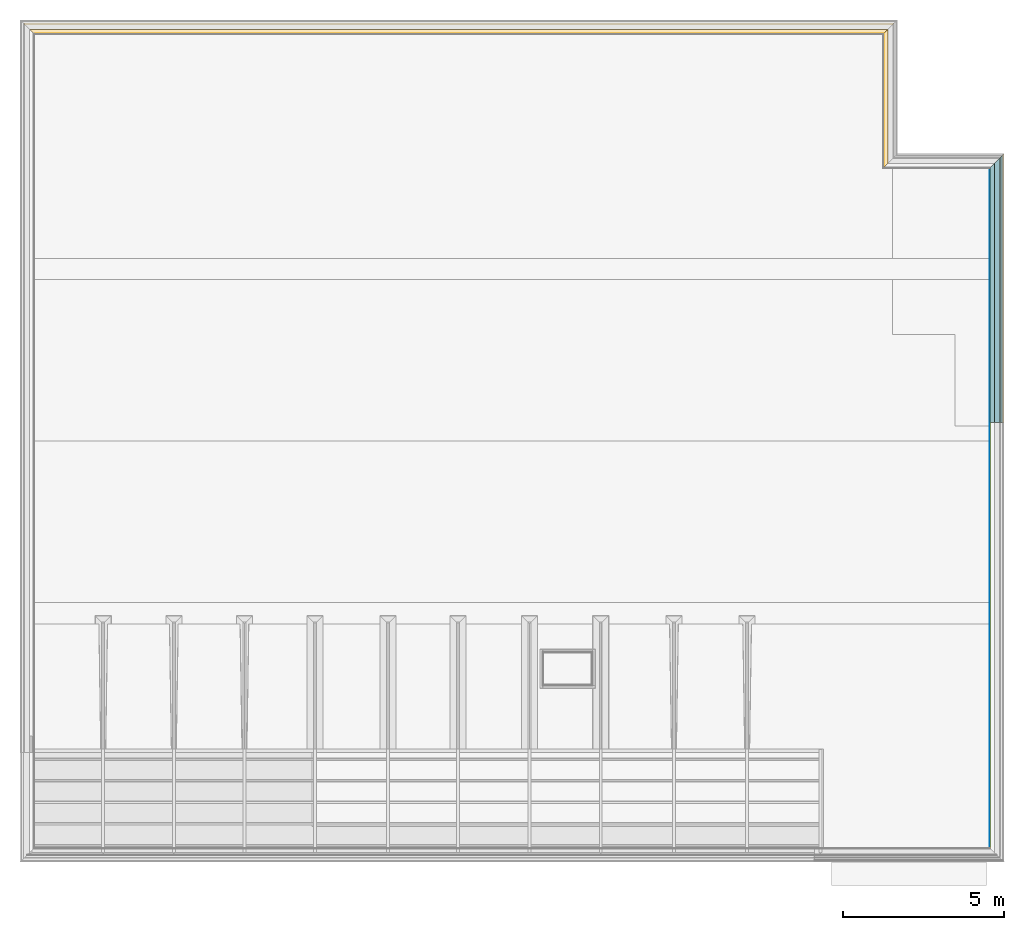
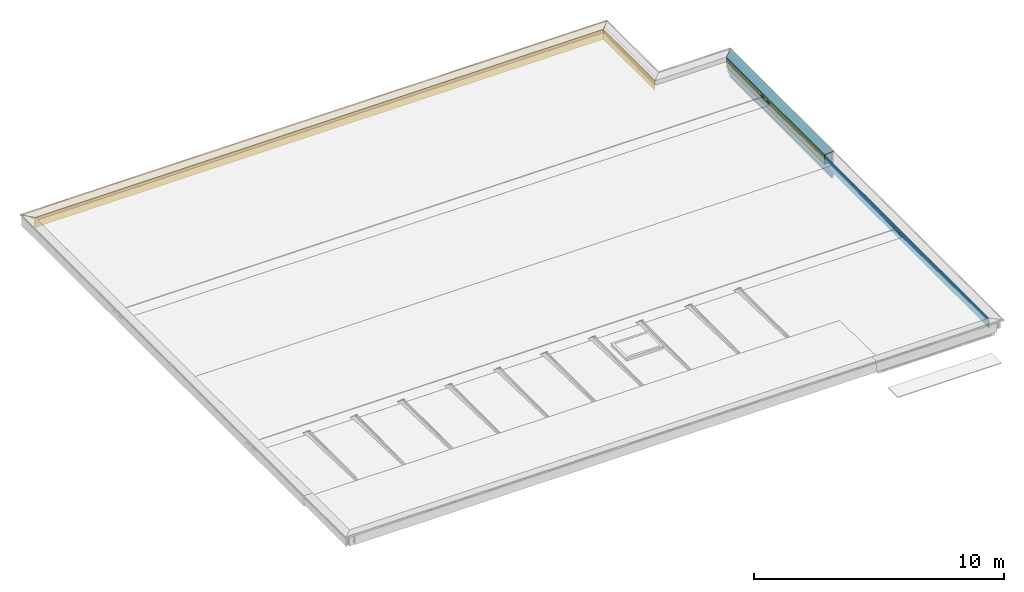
# One storey, part 15 of 16: 9 coverings, 8 building element parts, 4 openings, 4 elements without a shape of their own.
"""IFC2X3 building model written with IfcOpenShell, lengths in millimetres."""

from ifc_helpers import new_model, entity, si_unit, converted_unit, derived_unit, money_unit, direction, frame, origin_with_axes, place, context, subcontext, project, spatial, faceted_brep, material, type_object, element, aggregate, save


model = new_model("IFC2X3")

# Units and contexts
model_context = context("Model", 3, precision=0.01, world=origin_with_axes(), true_north=direction((0.0, 1.0)))
body_context = subcontext(model_context, "Body", "Model", "MODEL_VIEW")
ifc_project = project(units=[si_unit("LENGTHUNIT", "METRE", prefix="MILLI"), si_unit("AREAUNIT", "SQUARE_METRE"), si_unit("VOLUMEUNIT", "CUBIC_METRE"), converted_unit("PLANEANGLEUNIT", "DEGREE", entity("IfcPlaneAngleMeasure", 0.0174532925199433), si_unit("PLANEANGLEUNIT", "RADIAN"), dimensions=[0, 0, 0, 0, 0, 0, 0]), money_unit("EUR"), converted_unit("TIMEUNIT", "Year", entity("IfcTimeMeasure", 31556926.0), si_unit("TIMEUNIT", "SECOND"), dimensions=[0, 0, 1, 0, 0, 0, 0]), si_unit("MASSUNIT", "GRAM", prefix="KILO"), si_unit("THERMODYNAMICTEMPERATUREUNIT", "DEGREE_CELSIUS"), si_unit("LUMINOUSINTENSITYUNIT", "LUMEN"), si_unit("ENERGYUNIT", "JOULE", prefix="MEGA"), derived_unit("THERMALCONDUCTANCEUNIT", [(si_unit("POWERUNIT", "WATT"), 1), (si_unit("LENGTHUNIT", "METRE"), -1), (si_unit("THERMODYNAMICTEMPERATUREUNIT", "KELVIN"), -1)]), derived_unit("SPECIFICHEATCAPACITYUNIT", [(si_unit("ENERGYUNIT", "JOULE"), 1), (si_unit("MASSUNIT", "GRAM", prefix="KILO"), -1), (si_unit("THERMODYNAMICTEMPERATUREUNIT", "KELVIN"), -1)]), derived_unit("MASSDENSITYUNIT", [(si_unit("MASSUNIT", "GRAM", prefix="KILO"), 1), (si_unit("VOLUMEUNIT", "CUBIC_METRE"), -1)])], contexts=[model_context])

# Site, building, storey
site_placement = place(None, origin_with_axes())
site = spatial("IfcSite", under=ifc_project, at=site_placement, Name="Site", CompositionType="ELEMENT")
building_placement = place(site_placement, origin_with_axes())
building = spatial("IfcBuilding", under=site, at=building_placement, Name="Naam gebouw", CompositionType="ELEMENT")
storey_placement = place(building_placement, frame((0.0, 0.0, 7820.0), z_axis=(0.0, 0.0, 1.0), x_axis=(1.0, 0.0, 0.0)))
storey = spatial("IfcBuildingStorey", under=building, at=storey_placement, Name="2e dakoverzicht", CompositionType="ELEMENT", Elevation=7820.0)

# Beam, openings, coverings
beam_type_1 = type_object("IfcBeamType", Name="47 Isoniq M metselwerk overstek 443 x 1282", PredefinedType="BEAM")
beam_1_placement = place(storey_placement, frame((29899.99999999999, 25024.97621406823, 480.0000000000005), z_axis=(0.0, 0.0, 1.0), x_axis=(-1.0, 0.0, 0.0)))
beam_1 = element("IfcBeam", 1, at=beam_1_placement, inside=storey, type_object=beam_type_1, Name="28_Balk-x", ObjectType="BEAM")
opening_1_placement = place(beam_1_placement, frame((29899.99999999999, 25024.97621406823, -8300.0), z_axis=(0.0, 0.0, 1.0), x_axis=(-1.0, 0.0, 0.0)))
element("IfcOpeningElement", 2, at=opening_1_placement, cuts=beam_1, Name="_Opening-x", context=body_context, shape_type="Brep", body=[
    faceted_brep([(30190.00003246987, 21645.00000127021, 8102.999999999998), (30190.00003246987, 21415.00000127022, 8102.999999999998), (29710.00000134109, 21415.00000127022, 8102.999999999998), (29710.00000134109, 21645.00000127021, 8102.999999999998), (30190.00003246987, 21645.00000127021, 8172.999999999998), (30190.00003246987, 21415.00000127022, 8172.999999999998), (29710.00000134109, 21415.00000127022, 8172.999999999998), (29710.00000134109, 21645.00000127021, 8172.999999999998)], [[[0, 1, 2, 3]], [[0, 4, 5, 1]], [[1, 5, 6, 2]], [[3, 2, 6, 7]], [[4, 0, 3, 7]], [[5, 4, 7, 6]]]),
])
opening_2_placement = place(beam_1_placement, frame((29899.99999999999, 25024.97621406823, -8300.0), z_axis=(0.0, 0.0, 1.0), x_axis=(-1.0, 0.0, 0.0)))
element("IfcOpeningElement", 3, at=opening_2_placement, cuts=beam_1, Name="_Opening-x", context=body_context, shape_type="Brep", body=[
    faceted_brep([(29710.00000134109, 22085.00000127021, 8102.999999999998), (29710.00000134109, 22085.00000127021, 8172.999999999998), (30628.71943941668, 22085.00000127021, 8172.999999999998), (30628.71943941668, 22085.00000127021, 8102.999999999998), (29710.00000134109, 21855.00000127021, 8102.999999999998), (29710.00000134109, 21855.00000127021, 8172.999999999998), (30628.71943941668, 21855.00000127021, 8172.999999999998), (30628.71943941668, 21855.00000127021, 8102.999999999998)], [[[0, 1, 2, 3]], [[0, 4, 5, 1]], [[1, 5, 6, 2]], [[3, 2, 6, 7]], [[4, 0, 3, 7]], [[5, 4, 7, 6]]]),
])
ifc_material_1 = material(Name="Hout - Vloer")
covering_1_placement = place(beam_1_placement, origin_with_axes())
covering_1 = element("IfcCovering", 4, at=covering_1_placement, material=ifc_material_1, Name="Hout - Vloer", PredefinedType="NOTDEFINED", context=body_context, shape_type="Brep", body=[
    faceted_brep([(-1.701266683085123e-06, 8024.978432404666, -9.998211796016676), (-1.701266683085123e-06, 8024.978432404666, -48.00000479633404), (-1.701266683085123e-06, -1.701266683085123e-06, -48.00000479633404), (-1.701266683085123e-06, -1.701266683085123e-06, -9.998211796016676), (139.9484923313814, 8024.978432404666, -9.999995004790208), (140.0000009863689, 8024.978432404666, -47.99999774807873), (140.0000009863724, 140.0000009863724, -47.99999774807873), (139.9484923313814, 139.9484923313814, -9.999995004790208)], [[[0, 1, 2, 3]], [[0, 4, 5, 1]], [[1, 5, 6, 2]], [[3, 2, 6, 7]], [[4, 0, 3, 7]], [[5, 4, 7, 6]]]),
])
ifc_material_2 = material(Name="Hout - Spaanplaat")
covering_2_placement = place(beam_1_placement, origin_with_axes())
covering_2 = element("IfcCovering", 5, at=covering_2_placement, material=ifc_material_2, Name="Hout - Spaanplaat", PredefinedType="NOTDEFINED", context=body_context, shape_type="Brep", body=[
    faceted_brep([(-285.3597197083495, -285.3597197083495, 8.27450903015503), (-284.7348565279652, -284.7348565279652, 26.26365084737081), (-284.7348565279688, 8024.978432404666, 26.26365084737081), (-285.3597197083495, 8024.978432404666, 8.27450903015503), (154.3750810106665, 154.3750810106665, -7.000004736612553), (155.0000045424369, 155.0000045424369, 10.98915216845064), (155.0000045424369, 8024.978432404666, 10.98915216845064), (154.3750810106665, 8024.978432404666, -7.000004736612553)], [[[0, 1, 2, 3]], [[4, 5, 1, 0]], [[1, 5, 6, 2]], [[7, 3, 2, 6]], [[4, 0, 3, 7]], [[5, 4, 7, 6]]]),
])
ifc_material_3 = material(Name="Hout - Multiplex")
covering_3_placement = place(beam_1_placement, origin_with_axes())
covering_3 = element("IfcCovering", 6, at=covering_3_placement, material=ifc_material_3, Name="Hout - Multiplex", PredefinedType="NOTDEFINED", context=body_context, shape_type="Brep", body=[
    faceted_brep([(155.0000027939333, 155.0000027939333, -479.9999999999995), (155.0000027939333, 8024.978432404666, -479.9999999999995), (155.0000027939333, 8024.978432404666, -6.99999645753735), (155.0000027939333, 155.0000027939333, -6.99999645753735), (155.0000027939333, 3169.976212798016, -197.0000000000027), (155.0000027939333, 2939.976212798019, -197.0000000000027), (155.0000027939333, 2939.976212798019, -127.0000000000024), (155.0000027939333, 3169.976212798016, -127.0000000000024), (155.0000027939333, 3609.976212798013, -197.0000000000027), (155.0000027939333, 3379.976212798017, -197.0000000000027), (155.0000027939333, 3379.976212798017, -127.0000000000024), (155.0000027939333, 3609.976212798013, -127.0000000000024), (140.0000016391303, 140.0000016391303, -479.9999999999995), (140.0000016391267, 8024.978432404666, -479.9999999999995), (140.0000016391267, 8024.978432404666, -47.99999765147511), (140.0000016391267, 8024.978432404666, -6.99999645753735), (154.3750810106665, 8024.978432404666, -7.000004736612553), (154.3750810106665, 154.3750810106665, -7.000004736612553), (140.0000016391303, 140.0000016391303, -6.99999645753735), (140.0000016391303, 140.0000016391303, -47.99999765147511), (140.0000016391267, 3169.976212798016, -197.0000000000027), (140.0000016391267, 2939.976212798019, -197.0000000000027), (140.0000016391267, 2939.976212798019, -127.0000000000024), (140.0000016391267, 3169.976212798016, -127.0000000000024), (140.0000016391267, 3609.976212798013, -197.0000000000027), (140.0000016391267, 3379.976212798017, -197.0000000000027), (140.0000016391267, 3379.976212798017, -127.0000000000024), (140.0000016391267, 3609.976212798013, -127.0000000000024)], [[[0, 1, 2, 3], [4, 5, 6, 7], [8, 9, 10, 11]], [[12, 13, 1, 0]], [[13, 14, 15, 16, 2, 1]], [[3, 2, 16, 17]], [[18, 19, 12, 0, 3, 17]], [[20, 21, 5, 4]], [[21, 22, 6, 5]], [[22, 23, 7, 6]], [[23, 20, 4, 7]], [[24, 25, 9, 8]], [[25, 26, 10, 9]], [[26, 27, 11, 10]], [[27, 24, 8, 11]], [[19, 14, 13, 12], [20, 23, 22, 21], [24, 27, 26, 25]], [[18, 15, 14, 19]], [[17, 16, 15, 18]]]),
])

# Beam, coverings
beam_type_2 = type_object("IfcBeamType", Name="47 Isoniq M metselwerk 443 x 509", PredefinedType="BEAM")
beam_2_placement = place(storey_placement, frame((0.0, 29175.0, 480.0000000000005), z_axis=(0.0, 0.0, 1.0), x_axis=(0.0, -1.0, 0.0)))
beam_2 = element("IfcBeam", 7, at=beam_2_placement, inside=storey, type_object=beam_type_2, Name="28_Balk-x", ObjectType="BEAM")
covering_4_placement = place(beam_2_placement, origin_with_axes())
covering_4 = element("IfcCovering", 8, at=covering_4_placement, material=ifc_material_1, Name="Hout - Vloer", PredefinedType="NOTDEFINED", context=body_context, shape_type="Brep", body=[
    faceted_brep([(3.192859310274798e-07, 26599.99999968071, -9.998211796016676), (3.192859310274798e-07, 26599.99999968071, -48.00000479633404), (3.192894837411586e-07, 3.192829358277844e-07, -48.00000479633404), (3.192894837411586e-07, 3.192829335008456e-07, -9.998211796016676), (139.9485014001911, 26460.0514985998, -9.999995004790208), (140.0000030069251, 26459.99999699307, -47.99999774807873), (140.0000030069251, 140.0000030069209, -47.99999774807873), (139.9485014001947, 139.9485014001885, -9.999995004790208)], [[[0, 1, 2, 3]], [[0, 4, 5, 1]], [[1, 5, 6, 2]], [[3, 2, 6, 7]], [[4, 0, 3, 7]], [[5, 4, 7, 6]]]),
])
covering_5_placement = place(beam_2_placement, origin_with_axes())
covering_5 = element("IfcCovering", 9, at=covering_5_placement, material=ifc_material_2, Name="Hout - Spaanplaat", PredefinedType="NOTDEFINED", context=body_context, shape_type="Brep", body=[
    faceted_brep([(-285.3597197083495, 26885.35971970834, 8.27450903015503), (-285.3597197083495, -285.3597197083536, 8.27450903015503), (-284.7348565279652, -284.7348565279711, 26.26365084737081), (-284.7348565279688, 26884.73485652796, 26.26365084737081), (154.3750810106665, 26445.62491898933, -7.000004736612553), (154.3750810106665, 154.3750810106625, -7.000004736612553), (155.0000045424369, 155.0000045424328, 10.98915216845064), (155.0000045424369, 26444.99999545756, 10.98915216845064)], [[[0, 1, 2, 3]], [[4, 5, 1, 0]], [[1, 5, 6, 2]], [[3, 2, 6, 7]], [[7, 4, 0, 3]], [[7, 6, 5, 4]]]),
])
covering_6_placement = place(beam_2_placement, origin_with_axes())
covering_6 = element("IfcCovering", 10, at=covering_6_placement, material=ifc_material_3, Name="Hout - Multiplex", PredefinedType="NOTDEFINED", context=body_context, shape_type="Brep", body=[
    faceted_brep([(140.0000019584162, 26459.99999804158, -47.99999765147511), (140.0000019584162, 26459.99999804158, -479.9999999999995), (140.0000019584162, 140.0000019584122, -479.9999999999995), (140.0000019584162, 140.0000019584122, -47.99999765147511), (140.0000019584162, 26459.99999804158, -6.99999645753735), (154.3750810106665, 26445.62491898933, -7.000004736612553), (155.0000031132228, 26444.99999688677, -6.99999645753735), (155.0000031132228, 26444.99999688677, -479.9999999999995), (155.0000031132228, 155.0000031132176, -479.9999999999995), (155.0000031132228, 155.0000031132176, -6.99999645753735), (154.3750810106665, 154.3750810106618, -7.000004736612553), (140.0000019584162, 140.0000019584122, -6.99999645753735)], [[[0, 1, 2, 3]], [[0, 4, 5, 6, 7, 1]], [[1, 7, 8, 2]], [[3, 2, 8, 9, 10, 11]], [[4, 0, 3, 11]], [[5, 4, 11, 10]], [[6, 5, 10, 9]], [[7, 6, 9, 8]]]),
])
aggregate(beam_2, [covering_4, covering_5, covering_6])

beam_3_placement = place(storey_placement, frame((26600.0, 29175.0, 480.0000000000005), z_axis=(0.0, 0.0, 1.0), x_axis=(-1.0, 0.0, 0.0)))
beam_3 = element("IfcBeam", 11, at=beam_3_placement, inside=storey, type_object=beam_type_2, Name="28_Balk-x", ObjectType="BEAM")
covering_7_placement = place(beam_3_placement, origin_with_axes())
covering_7 = element("IfcCovering", 12, at=covering_7_placement, material=ifc_material_1, Name="Hout - Vloer", PredefinedType="NOTDEFINED", context=body_context, shape_type="Brep", body=[
    faceted_brep([(3.192859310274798e-07, 4150.023784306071, -9.998211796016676), (3.192859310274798e-07, 4150.023784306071, -48.00000479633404), (3.192894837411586e-07, 3.192894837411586e-07, -48.00000479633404), (3.192894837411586e-07, 3.192894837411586e-07, -9.998211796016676), (139.9485014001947, 4289.972284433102, -9.999995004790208), (140.0000030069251, 4290.023786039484, -47.99999774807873), (140.0000030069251, 140.0000030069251, -47.99999774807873), (139.9485014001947, 139.9485014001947, -9.999995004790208)], [[[0, 1, 2, 3]], [[0, 4, 5, 1]], [[1, 5, 6, 2]], [[3, 2, 6, 7]], [[4, 0, 3, 7]], [[5, 4, 7, 6]]]),
])
covering_8_placement = place(beam_3_placement, origin_with_axes())
covering_8 = element("IfcCovering", 13, at=covering_8_placement, material=ifc_material_3, Name="Hout - Multiplex", PredefinedType="NOTDEFINED", context=body_context, shape_type="Brep", body=[
    faceted_brep([(140.0000019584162, 4290.023784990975, -47.99999765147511), (140.0000019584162, 4290.023784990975, -479.9999999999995), (140.0000019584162, 140.0000019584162, -479.9999999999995), (140.0000019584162, 140.0000019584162, -47.99999765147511), (140.0000019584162, 4290.023784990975, -6.99999645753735), (154.3750810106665, 4304.398863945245, -7.000004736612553), (155.0000031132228, 4305.023786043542, -6.99999645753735), (155.0000031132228, 4305.023786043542, -479.9999999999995), (155.0000031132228, 155.0000031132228, -479.9999999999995), (155.0000031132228, 155.0000031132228, -6.99999645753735), (154.3750810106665, 154.3750810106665, -7.000004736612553), (140.0000019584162, 140.0000019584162, -6.99999645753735)], [[[0, 1, 2, 3]], [[0, 4, 5, 6, 7, 1]], [[1, 7, 8, 2]], [[3, 2, 8, 9, 10, 11]], [[4, 0, 3, 11]], [[5, 4, 11, 10]], [[6, 5, 10, 9]], [[7, 6, 9, 8]]]),
])
aggregate(beam_3, [covering_7, covering_8])

# Beam, openings, covering
beam_4_placement = place(storey_placement, frame((29899.99999999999, 16999.99778166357, 480.0000000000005), z_axis=(0.0, 0.0, 1.0), x_axis=(-1.0, 0.0, 0.0)))
beam_4 = element("IfcBeam", 14, at=beam_4_placement, inside=storey, type_object=beam_type_2, Name="28_Balk-x", ObjectType="BEAM")
opening_3_placement = place(beam_4_placement, frame((29899.99999999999, 16999.99778166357, -8300.0), z_axis=(0.0, 0.0, 1.0), x_axis=(-1.0, 0.0, 0.0)))
element("IfcOpeningElement", 15, at=opening_3_placement, cuts=beam_4, Name="_Opening-x", context=body_context, shape_type="Brep", body=[
    faceted_brep([(29709.99999999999, 10985.00000127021, 8102.999999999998), (29709.99999999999, 10985.00000127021, 8172.999999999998), (30628.71943941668, 10985.00000127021, 8172.999999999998), (30628.71943941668, 10985.00000127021, 8102.999999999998), (29709.99999999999, 10755.00000127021, 8102.999999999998), (29709.99999999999, 10755.00000127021, 8172.999999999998), (30628.71943941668, 10755.00000127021, 8172.999999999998), (30628.71943941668, 10755.00000127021, 8102.999999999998)], [[[0, 1, 2, 3]], [[0, 4, 5, 1]], [[1, 5, 6, 2]], [[3, 2, 6, 7]], [[4, 0, 3, 7]], [[5, 4, 7, 6]]]),
])
opening_4_placement = place(beam_4_placement, frame((29899.99999999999, 16999.99778166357, -8300.0), z_axis=(0.0, 0.0, 1.0), x_axis=(-1.0, 0.0, 0.0)))
element("IfcOpeningElement", 16, at=opening_4_placement, cuts=beam_4, Name="_Opening-x", context=body_context, shape_type="Brep", body=[
    faceted_brep([(29709.99999999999, 11425.00000127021, 8102.999999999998), (29709.99999999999, 11425.00000127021, 8172.999999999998), (30628.71943941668, 11425.00000127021, 8172.999999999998), (30628.71943941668, 11425.00000127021, 8102.999999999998), (29709.99999999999, 11195.00000127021, 8102.999999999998), (29709.99999999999, 11195.00000127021, 8172.999999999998), (30628.71943941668, 11195.00000127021, 8172.999999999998), (30628.71943941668, 11195.00000127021, 8102.999999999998)], [[[0, 1, 2, 3]], [[0, 4, 5, 1]], [[1, 5, 6, 2]], [[3, 2, 6, 7]], [[4, 0, 3, 7]], [[5, 4, 7, 6]]]),
])
covering_9_placement = place(beam_4_placement, origin_with_axes())
covering_9 = element("IfcCovering", 17, at=covering_9_placement, material=ifc_material_3, Name="Hout - Multiplex", PredefinedType="NOTDEFINED", context=body_context, shape_type="Brep", body=[
    faceted_brep([(155.0000031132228, 0.0, -479.9999999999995), (155.0000031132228, 13185.89627977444, -479.9999999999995), (155.0000031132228, 13185.89627977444, -6.99999645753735), (155.0000031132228, 0.0, -6.99999645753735), (155.0000031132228, 5804.997780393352, -197.0000000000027), (155.0000031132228, 5574.997780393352, -197.0000000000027), (155.0000031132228, 5574.997780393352, -127.0000000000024), (155.0000031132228, 5804.997780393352, -127.0000000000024), (155.0000031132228, 6244.997780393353, -197.0000000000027), (155.0000031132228, 6014.997780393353, -197.0000000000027), (155.0000031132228, 6014.997780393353, -127.0000000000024), (155.0000031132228, 6244.997780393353, -127.0000000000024), (140.0000019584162, 0.0, -479.9999999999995), (140.0000019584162, 13200.38879233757, -479.9999999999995), (140.0000019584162, 13200.38879233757, -47.99999765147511), (140.0000019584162, 13200.38879233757, -6.99999645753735), (154.3750810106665, 13186.50005915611, -7.000004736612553), (154.3750810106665, 0.0, -7.000004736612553), (140.0000019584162, 0.0, -6.99999645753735), (140.0000019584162, 0.0, -47.99999765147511), (140.0000019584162, 5804.997780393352, -197.0000000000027), (140.0000019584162, 5574.997780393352, -197.0000000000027), (140.0000019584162, 5574.997780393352, -127.0000000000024), (140.0000019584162, 5804.997780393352, -127.0000000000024), (140.0000019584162, 6244.997780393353, -197.0000000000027), (140.0000019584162, 6014.997780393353, -197.0000000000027), (140.0000019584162, 6014.997780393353, -127.0000000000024), (140.0000019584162, 6244.997780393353, -127.0000000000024)], [[[0, 1, 2, 3], [4, 5, 6, 7], [8, 9, 10, 11]], [[12, 13, 1, 0]], [[13, 14, 15, 16, 2, 1]], [[3, 2, 16, 17]], [[18, 19, 12, 0, 3, 17]], [[20, 21, 5, 4]], [[21, 22, 6, 5]], [[22, 23, 7, 6]], [[23, 20, 4, 7]], [[24, 25, 9, 8]], [[25, 26, 10, 9]], [[26, 27, 11, 10]], [[27, 24, 8, 11]], [[19, 14, 13, 12], [20, 23, 22, 21], [24, 27, 26, 25]], [[18, 15, 14, 19]], [[17, 16, 15, 18]]]),
])

# Building element part
ifc_material_4 = material(Name="47 waterdichte laag - bitumen")
building_element_part_1_placement = place(beam_1_placement, origin_with_axes())
building_element_part_1 = element("IfcBuildingElementPart", 18, at=building_element_part_1_placement, material=ifc_material_4, Name="47 waterdichte laag - bitumen", context=body_context, shape_type="Brep", body=[
    faceted_brep([(158.0000000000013, 158.0000000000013, -479.9999999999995), (157.9999999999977, 8024.978432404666, -479.9999999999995), (157.9999999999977, 8024.978432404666, 13.88675286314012), (158.0000000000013, 158.0000000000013, 13.88675286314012), (157.9999560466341, 3169.976212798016, -197.0000000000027), (157.9999560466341, 2939.976212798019, -197.0000000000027), (157.999945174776, 2939.976212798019, -127.0000000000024), (157.999945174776, 3169.976212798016, -127.0000000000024), (157.9999560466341, 3609.976212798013, -197.0000000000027), (157.9999560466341, 3379.976212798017, -197.0000000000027), (157.999945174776, 3379.976212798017, -127.0000000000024), (157.999945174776, 3609.976212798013, -127.0000000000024), (155.0000000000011, 155.0000000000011, -479.9999999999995), (154.9999999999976, 8024.978432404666, -479.9999999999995), (155.0000027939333, 8024.978432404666, -6.99999645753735), (154.9999999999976, 8024.978432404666, 10.989150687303), (155.0000000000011, 155.0000000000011, 10.989150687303), (155.0000027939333, 155.0000027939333, -6.99999645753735), (155.0000323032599, 3169.976212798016, -197.0000000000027), (155.0000323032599, 2939.976212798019, -197.0000000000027), (155.0000214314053, 2939.976212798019, -127.0000000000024), (155.0000214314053, 3169.976212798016, -127.0000000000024), (155.0000323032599, 3609.976212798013, -197.0000000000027), (155.0000323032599, 3379.976212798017, -197.0000000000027), (155.0000214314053, 3379.976212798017, -127.0000000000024), (155.0000214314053, 3609.976212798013, -127.0000000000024)], [[[0, 1, 2, 3], [4, 5, 6, 7], [8, 9, 10, 11]], [[12, 13, 1, 0]], [[14, 15, 2, 1, 13]], [[3, 2, 15, 16]], [[3, 16, 17, 12, 0]], [[18, 19, 5, 4]], [[19, 20, 6, 5]], [[20, 21, 7, 6]], [[21, 18, 4, 7]], [[22, 23, 9, 8]], [[23, 24, 10, 9]], [[24, 25, 11, 10]], [[25, 22, 8, 11]], [[17, 14, 13, 12], [18, 21, 20, 19], [22, 25, 24, 23]], [[16, 15, 14, 17]]]),
])

ifc_material_5 = material(Name="Steen - Baksteen")
building_element_part_2_placement = place(beam_1_placement, origin_with_axes())
building_element_part_2 = element("IfcBuildingElementPart", 19, at=building_element_part_2_placement, material=ifc_material_5, Name="Steen - Baksteen", context=body_context, shape_type="Brep", body=[
    faceted_brep([(-180.0000023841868, 8024.978432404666, 3.000000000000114), (-180.0000023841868, -180.0000023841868, 3.000000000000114), (-180.0000023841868, -180.0000023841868, -1150.658219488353), (-180.0000023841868, 8024.978432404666, -1150.658219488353), (-180.0000023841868, 2939.976212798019, -127.0000000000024), (-180.0000023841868, 3169.976212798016, -127.0000000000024), (-180.0000023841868, 3169.976212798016, -197.0000000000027), (-180.0000023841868, 2939.976212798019, -197.0000000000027), (-180.0000023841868, 3379.976212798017, -127.0000000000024), (-180.0000023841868, 3609.976212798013, -127.0000000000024), (-180.0000023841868, 3609.976212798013, -197.0000000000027), (-180.0000023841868, 3379.976212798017, -197.0000000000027), (-250.0, 8024.978432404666, 3.000000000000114), (-249.9999999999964, -249.9999999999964, 3.000000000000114), (-230.0000087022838, -230.0000087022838, -1249.999994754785), (-180.0000023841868, -180.0000023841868, -1249.999994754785), (-249.9999999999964, -249.9999999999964, -1249.999994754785), (-180.0000023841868, 8024.978432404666, -1249.999994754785), (-230.0000087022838, 8024.978432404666, -1249.999994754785), (-250.0, 8024.978432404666, -1249.999994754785), (-250.0, 2939.976212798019, -127.0000000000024), (-250.0, 3169.976212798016, -127.0000000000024), (-250.0, 3169.976212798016, -197.0000000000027), (-250.0, 2939.976212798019, -197.0000000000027), (-250.0, 3379.976212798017, -127.0000000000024), (-250.0, 3609.976212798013, -127.0000000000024), (-250.0, 3609.976212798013, -197.0000000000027), (-250.0, 3379.976212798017, -197.0000000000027)], [[[0, 1, 2, 3], [4, 5, 6, 7], [8, 9, 10, 11]], [[12, 13, 1, 0]], [[14, 15, 2, 1, 13, 16]], [[3, 2, 15, 17]], [[18, 19, 12, 0, 3, 17]], [[5, 4, 20, 21]], [[6, 5, 21, 22]], [[7, 6, 22, 23]], [[4, 7, 23, 20]], [[9, 8, 24, 25]], [[10, 9, 25, 26]], [[11, 10, 26, 27]], [[8, 11, 27, 24]], [[19, 16, 13, 12], [20, 23, 22, 21], [24, 27, 26, 25]], [[17, 15, 14, 18]], [[18, 14, 16, 19]]]),
])

ifc_material_6 = material(Name="Isolatie - Glaswol hard")
building_element_part_3_placement = place(beam_1_placement, origin_with_axes())
building_element_part_3 = element("IfcBuildingElementPart", 20, at=building_element_part_3_placement, material=ifc_material_6, Name="Isolatie - Glaswol hard", context=body_context, shape_type="Brep", body=[
    faceted_brep([(-1.701266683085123e-06, -1.701266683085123e-06, -479.9999993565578), (-1.701266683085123e-06, 8024.978432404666, -479.9999993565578), (-1.701266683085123e-06, 8024.978432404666, -9.998211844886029), (-1.701266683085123e-06, -1.701266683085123e-06, -9.998211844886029), (-1.701266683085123e-06, 3169.976212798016, -197.0000000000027), (-1.701266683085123e-06, 2939.976212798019, -197.0000000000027), (-1.701266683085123e-06, 2939.976212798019, -127.0000000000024), (-1.701266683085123e-06, 3169.976212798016, -127.0000000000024), (-1.701266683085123e-06, 3609.976212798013, -197.0000000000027), (-1.701266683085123e-06, 3379.976212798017, -197.0000000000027), (-1.701266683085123e-06, 3379.976212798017, -127.0000000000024), (-1.701266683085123e-06, 3609.976212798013, -127.0000000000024), (-1.701266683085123e-06, -1.701266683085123e-06, -885.0000000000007), (-1.701266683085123e-06, 8024.978432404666, -885.0000000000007), (-144.9999999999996, 8024.978432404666, -885.0000000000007), (-144.9999999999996, 8024.978432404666, -9.998211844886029), (-144.999999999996, -144.999999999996, -9.998211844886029), (-144.999999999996, -144.999999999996, -885.0000000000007), (-144.9999999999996, 3169.976212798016, -197.0000000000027), (-144.9999999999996, 2939.976212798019, -197.0000000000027), (-144.9999999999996, 2939.976212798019, -127.0000000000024), (-144.9999999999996, 3169.976212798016, -127.0000000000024), (-144.9999999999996, 3609.976212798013, -197.0000000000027), (-144.9999999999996, 3379.976212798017, -197.0000000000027), (-144.9999999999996, 3379.976212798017, -127.0000000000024), (-144.9999999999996, 3609.976212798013, -127.0000000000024)], [[[0, 1, 2, 3], [4, 5, 6, 7], [8, 9, 10, 11]], [[12, 13, 1, 0]], [[14, 15, 2, 1, 13]], [[3, 2, 15, 16]], [[3, 16, 17, 12, 0]], [[18, 19, 5, 4]], [[19, 20, 6, 5]], [[20, 21, 7, 6]], [[21, 18, 4, 7]], [[22, 23, 9, 8]], [[23, 24, 10, 9]], [[24, 25, 11, 10]], [[25, 22, 8, 11]], [[17, 14, 13, 12]], [[16, 15, 14, 17], [18, 21, 20, 19], [22, 25, 24, 23]]]),
])

ifc_material_7 = material(Name="Hout C")
building_element_part_4_placement = place(beam_1_placement, origin_with_axes())
building_element_part_4 = element("IfcBuildingElementPart", 21, at=building_element_part_4_placement, material=ifc_material_7, Name="Hout C", context=body_context, shape_type="Brep", body=[
    faceted_brep([(0.0, 8024.978432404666, -441.9999999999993), (0.0, 8024.978432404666, -479.9999999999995), (0.0, 0.0, -479.9999999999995), (0.0, 0.0, -441.9999999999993), (140.0000000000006, 8024.978432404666, -441.9999999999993), (140.0000000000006, 8024.978432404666, -479.9999999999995), (140.0000000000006, 140.0000000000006, -479.9999999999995), (140.0000000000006, 140.0000000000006, -441.9999999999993)], [[[0, 1, 2, 3]], [[0, 4, 5, 1]], [[1, 5, 6, 2]], [[3, 2, 6, 7]], [[4, 0, 3, 7]], [[5, 4, 7, 6]]]),
])

ifc_material_8 = material(Name="Metaal - Staal C")
building_element_part_5_placement = place(beam_1_placement, origin_with_axes())
building_element_part_5 = element("IfcBuildingElementPart", 22, at=building_element_part_5_placement, material=ifc_material_8, Name="Metaal - Staal C", context=body_context, shape_type="Brep", body=[
    faceted_brep([(-229.9999999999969, 8024.978432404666, -1252.999999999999), (-176.9999999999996, 8024.978432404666, -1252.999999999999), (-176.999999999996, -176.999999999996, -1252.999999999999), (-229.9999999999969, -229.9999999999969, -1252.999999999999), (-229.9999999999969, 8024.978432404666, -1249.999999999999), (-179.9999999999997, 8024.978432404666, -1249.999999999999), (-179.9999999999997, 8024.978432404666, -1150.658228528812), (-163.4534495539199, 8024.978432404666, -1141.105073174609), (-161.9534495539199, 8024.978432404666, -1143.703149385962), (-176.9999999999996, 8024.978432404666, -1152.999999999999), (-176.999999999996, -176.999999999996, -1152.999999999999), (-161.9534495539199, -161.9534495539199, -1143.703149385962), (-163.4534495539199, -163.4534495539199, -1141.105073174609), (-179.9999999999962, -179.9999999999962, -1150.658228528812), (-179.9999999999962, -179.9999999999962, -1249.999999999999), (-229.9999999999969, -229.9999999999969, -1249.999999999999)], [[[0, 1, 2, 3]], [[0, 4, 5, 6, 7, 8, 9, 1]], [[1, 9, 10, 2]], [[3, 2, 10, 11, 12, 13, 14, 15]], [[4, 0, 3, 15]], [[5, 4, 15, 14]], [[6, 5, 14, 13]], [[7, 6, 13, 12]], [[8, 7, 12, 11]], [[9, 8, 11, 10]]]),
])

building_element_part_6_placement = place(beam_1_placement, origin_with_axes())
building_element_part_6 = element("IfcBuildingElementPart", 23, at=building_element_part_6_placement, material=ifc_material_6, Name="Isolatie - Glaswol hard", context=body_context, shape_type="Brep", body=[
    faceted_brep([(139.9999985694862, 139.9999985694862, -441.999999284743), (139.9999985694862, 8024.978432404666, -441.999999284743), (139.9999985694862, 8024.978432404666, -48.00000000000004), (139.9999985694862, 139.9999985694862, -48.00000000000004), (139.9999985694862, 3169.976212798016, -197.0000000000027), (139.9999985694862, 2939.976212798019, -197.0000000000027), (139.9999985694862, 2939.976212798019, -127.0000000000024), (139.9999985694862, 3169.976212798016, -127.0000000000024), (139.9999985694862, 3609.976212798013, -197.0000000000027), (139.9999985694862, 3379.976212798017, -197.0000000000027), (139.9999985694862, 3379.976212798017, -127.0000000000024), (139.9999985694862, 3609.976212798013, -127.0000000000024), (0.0, 0.0, -441.999999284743), (0.0, 8024.978432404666, -441.999999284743), (0.0, 8024.978432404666, -48.00000000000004), (0.0, 0.0, -48.00000000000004), (0.0, 3169.976212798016, -197.0000000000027), (0.0, 2939.976212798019, -197.0000000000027), (0.0, 2939.976212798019, -127.0000000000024), (0.0, 3169.976212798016, -127.0000000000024), (0.0, 3609.976212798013, -197.0000000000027), (0.0, 3379.976212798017, -197.0000000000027), (0.0, 3379.976212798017, -127.0000000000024), (0.0, 3609.976212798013, -127.0000000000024)], [[[0, 1, 2, 3], [4, 5, 6, 7], [8, 9, 10, 11]], [[12, 13, 1, 0]], [[1, 13, 14, 2]], [[3, 2, 14, 15]], [[15, 12, 0, 3]], [[16, 17, 5, 4]], [[17, 18, 6, 5]], [[18, 19, 7, 6]], [[19, 16, 4, 7]], [[20, 21, 9, 8]], [[21, 22, 10, 9]], [[22, 23, 11, 10]], [[23, 20, 8, 11]], [[15, 14, 13, 12], [16, 19, 18, 17], [20, 23, 22, 21]]]),
])

building_element_part_7_placement = place(beam_1_placement, origin_with_axes())
building_element_part_7 = element("IfcBuildingElementPart", 24, at=building_element_part_7_placement, material=ifc_material_4, Name="47 waterdichte laag - bitumen", context=body_context, shape_type="Brep", body=[
    faceted_brep([(158.0000036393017, 158.0000036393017, 13.88674958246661), (-262.1351656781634, -262.1351713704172, 28.48044654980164), (-284.6578477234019, -284.6578534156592, 28.48044654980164), (-284.7348536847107, -284.7348536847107, 26.26365007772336), (155.0000023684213, 155.0000023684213, 10.98914888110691), (158.0000036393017, 8024.978432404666, 13.88674958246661), (-262.1351685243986, 8024.978432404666, 28.48044654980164), (-284.657850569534, 8024.978432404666, 28.48044654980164), (-284.7348536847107, 8024.978432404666, 26.26365007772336), (155.0000023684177, 8024.978432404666, 10.98914888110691)], [[[0, 1, 2, 3, 4]], [[5, 6, 1, 0]], [[6, 7, 2, 1]], [[3, 2, 7, 8]], [[4, 3, 8, 9]], [[0, 4, 9, 5]], [[8, 7, 6, 5, 9]]]),
])

aggregate(beam_1, [covering_1, covering_2, covering_3, building_element_part_1, building_element_part_2, building_element_part_3, building_element_part_4, building_element_part_5, building_element_part_6, building_element_part_7])

building_element_part_8_placement = place(beam_4_placement, origin_with_axes())
building_element_part_8 = element("IfcBuildingElementPart", 25, at=building_element_part_8_placement, material=ifc_material_4, Name="47 waterdichte laag - bitumen", context=body_context, shape_type="Brep", body=[
    faceted_brep([(158.0000000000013, 0.0, -479.9999999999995), (157.9999999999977, 13182.99778049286, -479.9999999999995), (157.9999999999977, 13182.99778049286, 13.88675286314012), (158.0000000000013, 0.0, 13.88675286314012), (157.9999510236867, 5804.997780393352, -197.0000000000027), (157.9999510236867, 5574.997780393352, -197.0000000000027), (157.9999389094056, 5574.997780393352, -127.0000000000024), (157.9999389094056, 5804.997780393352, -127.0000000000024), (157.9999510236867, 6244.997780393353, -197.0000000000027), (157.9999510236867, 6014.997780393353, -197.0000000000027), (157.9999389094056, 6014.997780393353, -127.0000000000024), (157.9999389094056, 6244.997780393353, -127.0000000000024), (155.0000000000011, 0.0, -479.9999999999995), (154.9999999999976, 13185.89628278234, -479.9999999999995), (155.0000031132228, 13185.89627977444, -6.99999645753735), (154.9999999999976, 13185.89628278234, 10.989150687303), (155.0000000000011, 0.0, 10.989150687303), (155.0000031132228, 0.0, -6.99999645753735), (155.0000359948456, 5804.997780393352, -197.0000000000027), (155.0000359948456, 5574.997780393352, -197.0000000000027), (155.0000238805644, 5574.997780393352, -127.0000000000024), (155.0000238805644, 5804.997780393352, -127.0000000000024), (155.0000359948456, 6244.997780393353, -197.0000000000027), (155.0000359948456, 6014.997780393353, -197.0000000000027), (155.0000238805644, 6014.997780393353, -127.0000000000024), (155.0000238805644, 6244.997780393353, -127.0000000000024)], [[[0, 1, 2, 3], [4, 5, 6, 7], [8, 9, 10, 11]], [[12, 13, 1, 0]], [[14, 15, 2, 1, 13]], [[3, 2, 15, 16]], [[3, 16, 17, 12, 0]], [[18, 19, 5, 4]], [[19, 20, 6, 5]], [[20, 21, 7, 6]], [[21, 18, 4, 7]], [[22, 23, 9, 8]], [[23, 24, 10, 9]], [[24, 25, 11, 10]], [[25, 22, 8, 11]], [[17, 14, 13, 12], [18, 21, 20, 19], [22, 25, 24, 23]], [[16, 15, 14, 17]]]),
])

aggregate(beam_4, [covering_9, building_element_part_8])

save(model, "model.ifc")
